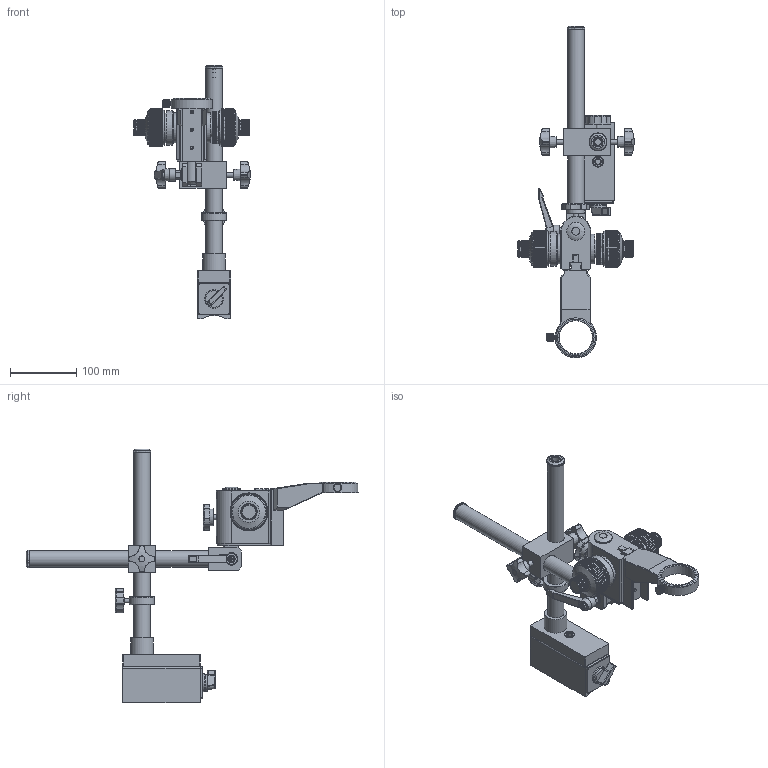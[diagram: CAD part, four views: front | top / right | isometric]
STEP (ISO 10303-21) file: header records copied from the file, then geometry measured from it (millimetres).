
FILE_DESCRIPTION(('STEP AP214'),'1');
FILE_NAME('GRS-STD10-MG.stp','2024-09-20T05:31:02',(' '),(' '),'Spatial InterOp 3D',' ',' ');
FILE_SCHEMA(('AUTOMOTIVE_DESIGN { 1 0 10303 214 1 1 1 1 }'));
Length unit declared in the file: metre
Products named in the file (5): GRS-STD10-MG; Component1; Component2; Component3; Component4
Assembly tree (4 placements, depth 2):
  GRS-STD10-MG
    Component1
    Component2
    Component3
    Component4
Bounding box: 175.64 x 500.94 x 383.2 mm (x, y, z)
Volume: 1306002.4 mm3; surface area: 298268.2 mm2
Topology: 10 solids, 14 shells, 3187 faces, 8144 edges, 5115 vertices
Faces by surface type: plane 1776, cylinder 925, torus 305, bspline 106, cone 62, sphere 13
Full cylindrical faces by diameter (mm): 2 x4, 2.4 x4, 2.5 x5, 4 x2, 4.6 x1, 5 x5, 6 x3, 8 x6, 8.3 x1, 9.3 x1, 9.8 x1, 10 x3, 10.5 x1, 11 x1, 11.7 x4, 12.1 x1, 12.4 x1, 12.9 x1, 13.1 x1, 13.9 x1, 14.5 x1, 15 x2, 15.2 x2, 15.7 x1, 16 x1, 16.5 x1, 17.4 x2, 18 x3, 18.1 x1, 18.4 x1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
Entity records: 199531 total; most frequent: CARTESIAN_POINT 58744, DIRECTION 15934, ORIENTED_EDGE 15708, STYLED_ITEM 11049, PRESENTATION_STYLE_ASSIGNMENT 11049, COLOUR_RGB 11049, EDGE_CURVE 7854, CURVE_STYLE 7852
